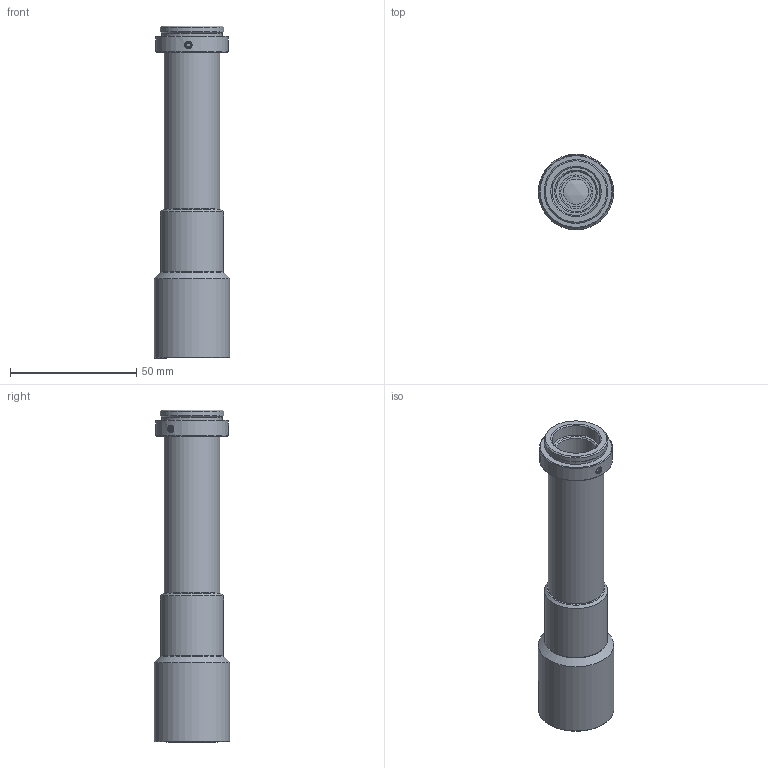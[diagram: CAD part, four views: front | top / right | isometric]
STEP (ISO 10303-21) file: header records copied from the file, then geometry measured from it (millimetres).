
FILE_DESCRIPTION(('STEP AP214'),'1');
FILE_NAME('RTK-2-M110.stp','2026-08-03T02:36:45',(' '),(' '),'Spatial InterOp 3D',' ',' ');
FILE_SCHEMA(('AUTOMOTIVE_DESIGN { 1 0 10303 214 1 1 1 1 }'));
Length unit declared in the file: metre
Products named in the file (2): RTK-2-M110; Component1
Assembly tree (1 placements, depth 2):
  RTK-2-M110
    Component1
Bounding box: 30 x 30 x 131.72 mm (x, y, z)
Volume: 34510.6 mm3; surface area: 21851.5 mm2
Topology: 1 solids, 7 shells, 170 faces, 378 edges, 250 vertices
Faces by surface type: plane 66, cone 59, cylinder 40, bspline 3, sphere 2
Full cylindrical faces by diameter (mm): 2.5 x6, 10 x1, 12 x2, 13.4 x1, 14.2 x1, 16 x1, 16.5 x1, 17.2 x1, 17.4 x1, 18 x1, 18.4 x1, 19 x2, 19.02 x1, 19.2 x1, 20.2 x1, 20.4 x1, 21.2 x1, 22 x4, 22.5 x1, 24 x3, 24.12 x1, 25 x1, 25.32 x1, 27 x2, 27.8 x1, 29 x1, 30 x1
Entity records: 5774 total; most frequent: CARTESIAN_POINT 1062, DIRECTION 706, ORIENTED_EDGE 520, AXIS2_PLACEMENT_3D 307, EDGE_LOOP 286, EDGE_CURVE 260, VERTEX_POINT 220, FACE_OUTER_BOUND 213
